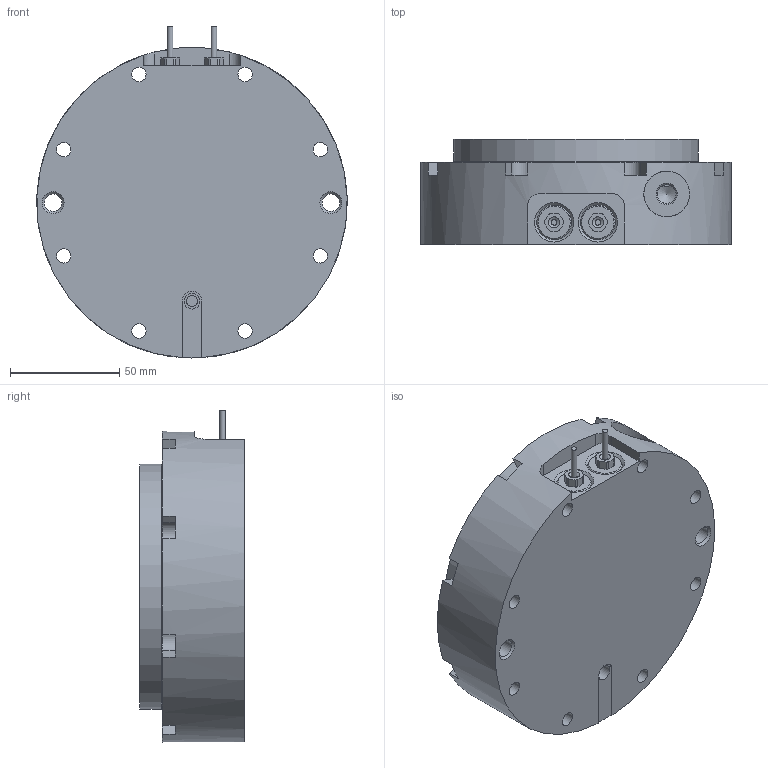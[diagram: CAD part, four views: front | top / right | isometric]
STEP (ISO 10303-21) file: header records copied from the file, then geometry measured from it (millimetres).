
FILE_DESCRIPTION( ( 'STEP AP203' ), '1' );
FILE_NAME( 'p:/temp/worker_19/temp/exporttempdir_4352_615_uEede/format_1/AMF552967.stp', '2020-03-20T06:55:27', ( 'License CC BY-ND 4.0' ), ( 'CADENAS' ), ' ', 'PARTsolutions', ' ' );
FILE_SCHEMA( ( 'CONFIG_CONTROL_DESIGN' ) );
Length unit declared in the file: millimetre
Products named in the file (3): AMF552967; _AMF552967-01; _AMF428730
Assembly tree (2 placements, depth 2):
  AMF552967
    _AMF552967-01
    _AMF428730
Bounding box: 142 x 48 x 151.8 mm (x, y, z)
Volume: 653429 mm3; surface area: 100492.6 mm2
Topology: 2 solids, 2 shells, 256 faces, 592 edges, 393 vertices
Faces by surface type: plane 153, cylinder 80, cone 21, torus 2
Full cylindrical faces by diameter (mm): 2 x1, 2.6 x2, 4.917 x2, 5 x4, 6 x6, 6.2 x6, 6.6 x8, 7.2 x1, 8 x3, 8.2 x1, 8.566 x1, 9 x2, 10 x6, 12.5 x6, 21 x1, 22 x1, 78 x2, 112 x1, 142 x1
Entity records: 7094 total; most frequent: CARTESIAN_POINT 1368, DIRECTION 1200, ORIENTED_EDGE 986, EDGE_CURVE 493, AXIS2_PLACEMENT_3D 459, EDGE_LOOP 409, VERTEX_POINT 373, FACE_OUTER_BOUND 313
